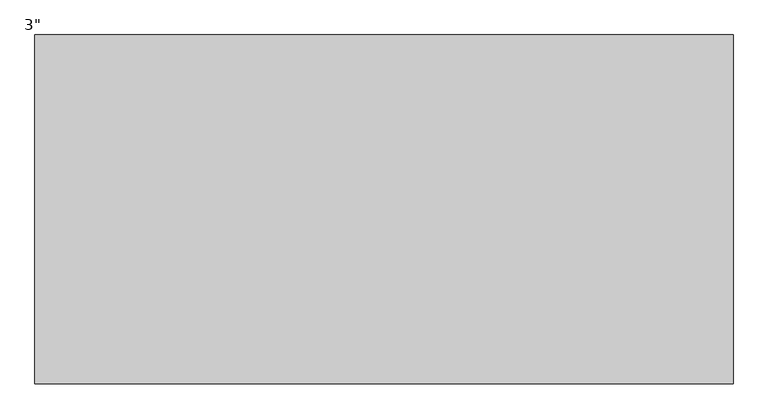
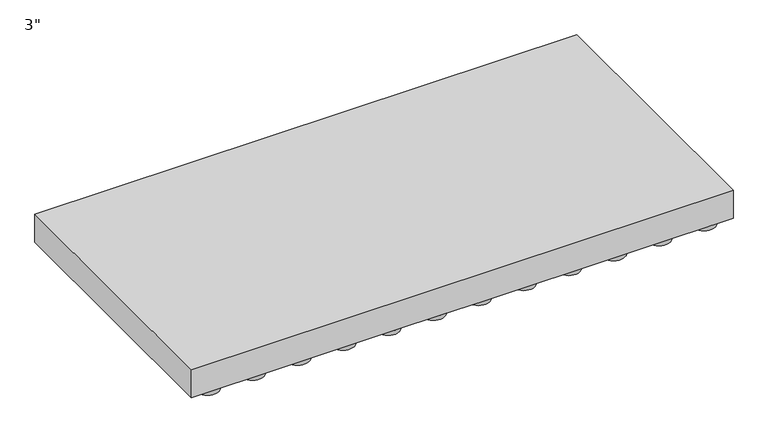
"""IFC4 building model written with IfcOpenShell, lengths in millimetres: proxy geometry."""

from ifc_helpers import new_model, si_unit, frame, origin, place, context, project, spatial, circle_curve, source, transform, mapped, element, save
from ifc_brep_helpers import plane_surface, cylinder_surface, advanced_brep


def proxy_46de1dcf(model_context):
    return source(origin(), model_context, "Body", "AdvancedBrep", [
        advanced_brep(
        [(533.4, -279.4, 0.0), (533.4, 279.4, 0.0), (584.2, 279.4, 0.0), (584.2, -279.4, 0.0), (431.8, -279.4, 0.0), (431.8, 279.4, 0.0), (482.6, 279.4, 0.0), (482.6, -279.4, 0.0), (330.2, -279.4, 0.0), (330.2, 279.4, 0.0), (381.0, 279.4, 0.0), (381.0, -279.4, 0.0), (228.6, -279.4, 0.0), (228.6, 279.4, 0.0), (279.4, 279.4, 0.0), (279.4, -279.4, 0.0), (127.0, -279.4, 0.0), (127.0, 279.4, 0.0), (177.8, 279.4, 0.0), (177.8, -279.4, 0.0), (25.4, -279.4, 0.0), (25.4, 279.4, 0.0), (76.2, 279.4, 0.0), (76.2, -279.4, 0.0), (-76.2, -279.4, 0.0), (-76.2, 279.4, 0.0), (-25.4, 279.4, 0.0), (-25.4, -279.4, 0.0), (-177.8, -279.4, 0.0), (-177.8, 279.4, 0.0), (-127.0, 279.4, 0.0), (-127.0, -279.4, 0.0), (-279.4, -279.4, 0.0), (-279.4, 279.4, 0.0), (-228.6, 279.4, 0.0), (-228.6, -279.4, 0.0), (-381.0, -279.4, 0.0), (-381.0, 279.4, 0.0), (-330.2, 279.4, 0.0), (-330.2, -279.4, 0.0), (-482.6, -279.4, 0.0), (-482.6, 279.4, 0.0), (-431.8, 279.4, 0.0), (-431.8, -279.4, 0.0), (-584.2, -279.4, 0.0), (-584.2, 279.4, 0.0), (-533.4, 279.4, 0.0), (-533.4, -279.4, 0.0), (533.4, -279.4, 9.525), (533.4, 279.4, 9.525), (558.8, 304.8, 9.525), (584.2, 279.4, 9.525), (584.2, -279.4, 9.525), (558.8, -304.8, 9.525), (-609.6, 304.8, 76.2), (-609.6, -304.8, 76.2), (609.6, -304.8, 76.2), (609.6, 304.8, 76.2), (457.2, -304.8, 9.525), (482.6, -279.4, 9.525), (482.6, 279.4, 9.525), (457.2, 304.8, 9.525), (-609.6, 304.8, 9.525), (-558.8, 304.8, 9.525), (-584.2, 279.4, 9.525), (-584.2, -279.4, 9.525), (-558.8, -304.8, 9.525), (-609.6, -304.8, 9.525), (609.6, -304.8, 9.525), (609.6, 304.8, 9.525), (431.8, 279.4, 9.525), (431.8, -279.4, 9.525), (355.6, -304.8, 9.525), (381.0, -279.4, 9.525), (381.0, 279.4, 9.525), (355.6, 304.8, 9.525), (330.2, 279.4, 9.525), (330.2, -279.4, 9.525), (254.0, -304.8, 9.525), (279.4, -279.4, 9.525), (279.4, 279.4, 9.525), (254.0, 304.8, 9.525), (228.6, 279.4, 9.525), (228.6, -279.4, 9.525), (152.4, -304.8, 9.525), (177.8, -279.4, 9.525), (177.8, 279.4, 9.525), (152.4, 304.8, 9.525), (127.0, 279.4, 9.525), (127.0, -279.4, 9.525), (50.8, -304.8, 9.525), (76.2, -279.4, 9.525), (76.2, 279.4, 9.525), (50.8, 304.8, 9.525), (25.4, 279.4, 9.525), (25.4, -279.4, 9.525), (-50.8, -304.8, 9.525), (-25.4, -279.4, 9.525), (-25.4, 279.4, 9.525), (-50.8, 304.8, 9.525), (-76.2, 279.4, 9.525), (-76.2, -279.4, 9.525), (-152.4, -304.8, 9.525), (-127.0, -279.4, 9.525), (-127.0, 279.4, 9.525), (-152.4, 304.8, 9.525), (-177.8, 279.4, 9.525), (-177.8, -279.4, 9.525), (-254.0, -304.8, 9.525), (-228.6, -279.4, 9.525), (-228.6, 279.4, 9.525), (-254.0, 304.8, 9.525), (-279.4, 279.4, 9.525), (-279.4, -279.4, 9.525), (-355.6, -304.8, 9.525), (-330.2, -279.4, 9.525), (-330.2, 279.4, 9.525), (-355.6, 304.8, 9.525), (-381.0, 279.4, 9.525), (-381.0, -279.4, 9.525), (-457.2, -304.8, 9.525), (-431.8, -279.4, 9.525), (-431.8, 279.4, 9.525), (-457.2, 304.8, 9.525), (-482.6, 279.4, 9.525), (-482.6, -279.4, 9.525), (-533.4, -279.4, 9.525), (-533.4, 279.4, 9.525)],
        [
            (0, 1),
            (1, 2, circle_curve(frame((558.8, 279.4, 0.0), z_axis=(0.0, 0.0, -1.0), x_axis=(1.0, 0.0, 0.0)), 25.4)),
            (2, 3),
            (3, 0, circle_curve(frame((558.8, -279.4, 0.0), z_axis=(0.0, 0.0, -1.0), x_axis=(1.0, 0.0, 0.0)), 25.4)),
            (4, 5),
            (5, 6, circle_curve(frame((457.2, 279.4, 0.0), z_axis=(0.0, 0.0, -1.0), x_axis=(1.0, 0.0, 0.0)), 25.4)),
            (6, 7),
            (7, 4, circle_curve(frame((457.2, -279.4, 0.0), z_axis=(0.0, 0.0, -1.0), x_axis=(1.0, 0.0, 0.0)), 25.4)),
            (8, 9),
            (9, 10, circle_curve(frame((355.6, 279.4, 0.0), z_axis=(0.0, 0.0, -1.0), x_axis=(1.0, 0.0, 0.0)), 25.4)),
            (10, 11),
            (11, 8, circle_curve(frame((355.6, -279.4, 0.0), z_axis=(0.0, 0.0, -1.0), x_axis=(1.0, 0.0, 0.0)), 25.4)),
            (12, 13),
            (13, 14, circle_curve(frame((254.0, 279.4, 0.0), z_axis=(0.0, 0.0, -1.0), x_axis=(1.0, 0.0, 0.0)), 25.4)),
            (14, 15),
            (15, 12, circle_curve(frame((254.0, -279.4, 0.0), z_axis=(0.0, 0.0, -1.0), x_axis=(1.0, 0.0, 0.0)), 25.4)),
            (16, 17),
            (17, 18, circle_curve(frame((152.4, 279.4, 0.0), z_axis=(0.0, 0.0, -1.0), x_axis=(1.0, 0.0, 0.0)), 25.4)),
            (18, 19),
            (19, 16, circle_curve(frame((152.4, -279.4, 0.0), z_axis=(0.0, 0.0, -1.0), x_axis=(1.0, 0.0, 0.0)), 25.4)),
            (20, 21),
            (21, 22, circle_curve(frame((50.8, 279.4, 0.0), z_axis=(0.0, 0.0, -1.0), x_axis=(1.0, 0.0, 0.0)), 25.4)),
            (22, 23),
            (23, 20, circle_curve(frame((50.8, -279.4, 0.0), z_axis=(0.0, 0.0, -1.0), x_axis=(1.0, 0.0, 0.0)), 25.4)),
            (24, 25),
            (25, 26, circle_curve(frame((-50.8, 279.4, 0.0), z_axis=(0.0, 0.0, -1.0), x_axis=(1.0, 0.0, 0.0)), 25.4)),
            (26, 27),
            (27, 24, circle_curve(frame((-50.8, -279.4, 0.0), z_axis=(0.0, 0.0, -1.0), x_axis=(1.0, 0.0, 0.0)), 25.4)),
            (28, 29),
            (29, 30, circle_curve(frame((-152.4, 279.4, 0.0), z_axis=(0.0, 0.0, -1.0), x_axis=(1.0, 0.0, 0.0)), 25.4)),
            (30, 31),
            (31, 28, circle_curve(frame((-152.4, -279.4, 0.0), z_axis=(0.0, 0.0, -1.0), x_axis=(1.0, 0.0, 0.0)), 25.4)),
            (32, 33),
            (33, 34, circle_curve(frame((-254.0, 279.4, 0.0), z_axis=(0.0, 0.0, -1.0), x_axis=(1.0, 0.0, 0.0)), 25.4)),
            (34, 35),
            (35, 32, circle_curve(frame((-254.0, -279.4, 0.0), z_axis=(0.0, 0.0, -1.0), x_axis=(1.0, 0.0, 0.0)), 25.4)),
            (36, 37),
            (37, 38, circle_curve(frame((-355.6, 279.4, 0.0), z_axis=(0.0, 0.0, -1.0), x_axis=(1.0, 0.0, 0.0)), 25.4)),
            (38, 39),
            (39, 36, circle_curve(frame((-355.6, -279.4, 0.0), z_axis=(0.0, 0.0, -1.0), x_axis=(1.0, 0.0, 0.0)), 25.4)),
            (40, 41),
            (41, 42, circle_curve(frame((-457.2, 279.4, 0.0), z_axis=(0.0, 0.0, -1.0), x_axis=(1.0, 0.0, 0.0)), 25.4)),
            (42, 43),
            (43, 40, circle_curve(frame((-457.2, -279.4, 0.0), z_axis=(0.0, 0.0, -1.0), x_axis=(1.0, 0.0, 0.0)), 25.4)),
            (44, 45),
            (45, 46, circle_curve(frame((-558.8, 279.4, 0.0), z_axis=(0.0, 0.0, -1.0), x_axis=(1.0, 0.0, 0.0)), 25.4)),
            (46, 47),
            (47, 44, circle_curve(frame((-558.8, -279.4, 0.0), z_axis=(0.0, 0.0, -1.0), x_axis=(1.0, 0.0, 0.0)), 25.4)),
            (0, 48),
            (48, 49),
            (49, 1),
            (49, 50, circle_curve(frame((558.8, 279.4, 9.525), z_axis=(0.0, 0.0, -1.0), x_axis=(1.0, 0.0, 0.0)), 25.4)),
            (50, 51, circle_curve(frame((558.8, 279.4, 9.525), z_axis=(0.0, 0.0, -1.0), x_axis=(1.0, 0.0, 0.0)), 25.4)),
            (51, 2),
            (51, 52),
            (52, 3),
            (52, 53, circle_curve(frame((558.8, -279.4, 9.525), z_axis=(0.0, 0.0, -1.0), x_axis=(1.0, 0.0, 0.0)), 25.4)),
            (53, 48, circle_curve(frame((558.8, -279.4, 9.525), z_axis=(0.0, 0.0, -1.0), x_axis=(1.0, 0.0, 0.0)), 25.4)),
            (54, 55),
            (55, 56),
            (56, 57),
            (57, 54),
            (53, 58),
            (58, 59, circle_curve(frame((457.2, -279.4, 9.525), z_axis=(0.0, 0.0, 1.0), x_axis=(1.0, 0.0, 0.0)), 25.4)),
            (59, 60),
            (60, 61, circle_curve(frame((457.2, 279.4, 9.525), z_axis=(0.0, 0.0, 1.0), x_axis=(1.0, 0.0, 0.0)), 25.4)),
            (61, 50),
            (62, 63),
            (63, 64, circle_curve(frame((-558.8, 279.4, 9.525), z_axis=(0.0, 0.0, 1.0), x_axis=(1.0, 0.0, 0.0)), 25.4)),
            (64, 65),
            (65, 66, circle_curve(frame((-558.8, -279.4, 9.525), z_axis=(0.0, 0.0, 1.0), x_axis=(1.0, 0.0, 0.0)), 25.4)),
            (66, 67),
            (67, 62),
            (68, 53),
            (50, 69),
            (69, 68),
            (61, 70, circle_curve(frame((457.2, 279.4, 9.525), z_axis=(0.0, 0.0, 1.0), x_axis=(1.0, 0.0, 0.0)), 25.4)),
            (70, 71),
            (71, 58, circle_curve(frame((457.2, -279.4, 9.525), z_axis=(0.0, 0.0, 1.0), x_axis=(1.0, 0.0, 0.0)), 25.4)),
            (58, 72),
            (72, 73, circle_curve(frame((355.6, -279.4, 9.525), z_axis=(0.0, 0.0, 1.0), x_axis=(1.0, 0.0, 0.0)), 25.4)),
            (73, 74),
            (74, 75, circle_curve(frame((355.6, 279.4, 9.525), z_axis=(0.0, 0.0, 1.0), x_axis=(1.0, 0.0, 0.0)), 25.4)),
            (75, 61),
            (75, 76, circle_curve(frame((355.6, 279.4, 9.525), z_axis=(0.0, 0.0, 1.0), x_axis=(1.0, 0.0, 0.0)), 25.4)),
            (76, 77),
            (77, 72, circle_curve(frame((355.6, -279.4, 9.525), z_axis=(0.0, 0.0, 1.0), x_axis=(1.0, 0.0, 0.0)), 25.4)),
            (72, 78),
            (78, 79, circle_curve(frame((254.0, -279.4, 9.525), z_axis=(0.0, 0.0, 1.0), x_axis=(1.0, 0.0, 0.0)), 25.4)),
            (79, 80),
            (80, 81, circle_curve(frame((254.0, 279.4, 9.525), z_axis=(0.0, 0.0, 1.0), x_axis=(1.0, 0.0, 0.0)), 25.4)),
            (81, 75),
            (81, 82, circle_curve(frame((254.0, 279.4, 9.525), z_axis=(0.0, 0.0, 1.0), x_axis=(1.0, 0.0, 0.0)), 25.4)),
            (82, 83),
            (83, 78, circle_curve(frame((254.0, -279.4, 9.525), z_axis=(0.0, 0.0, 1.0), x_axis=(1.0, 0.0, 0.0)), 25.4)),
            (78, 84),
            (84, 85, circle_curve(frame((152.4, -279.4, 9.525), z_axis=(0.0, 0.0, 1.0), x_axis=(1.0, 0.0, 0.0)), 25.4)),
            (85, 86),
            (86, 87, circle_curve(frame((152.4, 279.4, 9.525), z_axis=(0.0, 0.0, 1.0), x_axis=(1.0, 0.0, 0.0)), 25.4)),
            (87, 81),
            (87, 88, circle_curve(frame((152.4, 279.4, 9.525), z_axis=(0.0, 0.0, 1.0), x_axis=(1.0, 0.0, 0.0)), 25.4)),
            (88, 89),
            (89, 84, circle_curve(frame((152.4, -279.4, 9.525), z_axis=(0.0, 0.0, 1.0), x_axis=(1.0, 0.0, 0.0)), 25.4)),
            (84, 90),
            (90, 91, circle_curve(frame((50.8, -279.4, 9.525), z_axis=(0.0, 0.0, 1.0), x_axis=(1.0, 0.0, 0.0)), 25.4)),
            (91, 92),
            (92, 93, circle_curve(frame((50.8, 279.4, 9.525), z_axis=(0.0, 0.0, 1.0), x_axis=(1.0, 0.0, 0.0)), 25.4)),
            (93, 87),
            (93, 94, circle_curve(frame((50.8, 279.4, 9.525), z_axis=(0.0, 0.0, 1.0), x_axis=(1.0, 0.0, 0.0)), 25.4)),
            (94, 95),
            (95, 90, circle_curve(frame((50.8, -279.4, 9.525), z_axis=(0.0, 0.0, 1.0), x_axis=(1.0, 0.0, 0.0)), 25.4)),
            (90, 96),
            (96, 97, circle_curve(frame((-50.8, -279.4, 9.525), z_axis=(0.0, 0.0, 1.0), x_axis=(1.0, 0.0, 0.0)), 25.4)),
            (97, 98),
            (98, 99, circle_curve(frame((-50.8, 279.4, 9.525), z_axis=(0.0, 0.0, 1.0), x_axis=(1.0, 0.0, 0.0)), 25.4)),
            (99, 93),
            (99, 100, circle_curve(frame((-50.8, 279.4, 9.525), z_axis=(0.0, 0.0, 1.0), x_axis=(1.0, 0.0, 0.0)), 25.4)),
            (100, 101),
            (101, 96, circle_curve(frame((-50.8, -279.4, 9.525), z_axis=(0.0, 0.0, 1.0), x_axis=(1.0, 0.0, 0.0)), 25.4)),
            (96, 102),
            (102, 103, circle_curve(frame((-152.4, -279.4, 9.525), z_axis=(0.0, 0.0, 1.0), x_axis=(1.0, 0.0, 0.0)), 25.4)),
            (103, 104),
            (104, 105, circle_curve(frame((-152.4, 279.4, 9.525), z_axis=(0.0, 0.0, 1.0), x_axis=(1.0, 0.0, 0.0)), 25.4)),
            (105, 99),
            (105, 106, circle_curve(frame((-152.4, 279.4, 9.525), z_axis=(0.0, 0.0, 1.0), x_axis=(1.0, 0.0, 0.0)), 25.4)),
            (106, 107),
            (107, 102, circle_curve(frame((-152.4, -279.4, 9.525), z_axis=(0.0, 0.0, 1.0), x_axis=(1.0, 0.0, 0.0)), 25.4)),
            (102, 108),
            (108, 109, circle_curve(frame((-254.0, -279.4, 9.525), z_axis=(0.0, 0.0, 1.0), x_axis=(1.0, 0.0, 0.0)), 25.4)),
            (109, 110),
            (110, 111, circle_curve(frame((-254.0, 279.4, 9.525), z_axis=(0.0, 0.0, 1.0), x_axis=(1.0, 0.0, 0.0)), 25.4)),
            (111, 105),
            (111, 112, circle_curve(frame((-254.0, 279.4, 9.525), z_axis=(0.0, 0.0, 1.0), x_axis=(1.0, 0.0, 0.0)), 25.4)),
            (112, 113),
            (113, 108, circle_curve(frame((-254.0, -279.4, 9.525), z_axis=(0.0, 0.0, 1.0), x_axis=(1.0, 0.0, 0.0)), 25.4)),
            (108, 114),
            (114, 115, circle_curve(frame((-355.6, -279.4, 9.525), z_axis=(0.0, 0.0, 1.0), x_axis=(1.0, 0.0, 0.0)), 25.4)),
            (115, 116),
            (116, 117, circle_curve(frame((-355.6, 279.4, 9.525), z_axis=(0.0, 0.0, 1.0), x_axis=(1.0, 0.0, 0.0)), 25.4)),
            (117, 111),
            (117, 118, circle_curve(frame((-355.6, 279.4, 9.525), z_axis=(0.0, 0.0, 1.0), x_axis=(1.0, 0.0, 0.0)), 25.4)),
            (118, 119),
            (119, 114, circle_curve(frame((-355.6, -279.4, 9.525), z_axis=(0.0, 0.0, 1.0), x_axis=(1.0, 0.0, 0.0)), 25.4)),
            (114, 120),
            (120, 121, circle_curve(frame((-457.2, -279.4, 9.525), z_axis=(0.0, 0.0, 1.0), x_axis=(1.0, 0.0, 0.0)), 25.4)),
            (121, 122),
            (122, 123, circle_curve(frame((-457.2, 279.4, 9.525), z_axis=(0.0, 0.0, 1.0), x_axis=(1.0, 0.0, 0.0)), 25.4)),
            (123, 117),
            (123, 124, circle_curve(frame((-457.2, 279.4, 9.525), z_axis=(0.0, 0.0, 1.0), x_axis=(1.0, 0.0, 0.0)), 25.4)),
            (124, 125),
            (125, 120, circle_curve(frame((-457.2, -279.4, 9.525), z_axis=(0.0, 0.0, 1.0), x_axis=(1.0, 0.0, 0.0)), 25.4)),
            (120, 66),
            (66, 126, circle_curve(frame((-558.8, -279.4, 9.525), z_axis=(0.0, 0.0, 1.0), x_axis=(1.0, 0.0, 0.0)), 25.4)),
            (126, 127),
            (127, 63, circle_curve(frame((-558.8, 279.4, 9.525), z_axis=(0.0, 0.0, 1.0), x_axis=(1.0, 0.0, 0.0)), 25.4)),
            (63, 123),
            (57, 69),
            (62, 54),
            (56, 68),
            (55, 67),
            (4, 71),
            (70, 5),
            (60, 6),
            (59, 7),
            (8, 77),
            (76, 9),
            (74, 10),
            (73, 11),
            (12, 83),
            (82, 13),
            (80, 14),
            (79, 15),
            (16, 89),
            (88, 17),
            (86, 18),
            (85, 19),
            (20, 95),
            (94, 21),
            (92, 22),
            (91, 23),
            (24, 101),
            (100, 25),
            (98, 26),
            (97, 27),
            (28, 107),
            (106, 29),
            (104, 30),
            (103, 31),
            (32, 113),
            (112, 33),
            (110, 34),
            (109, 35),
            (36, 119),
            (118, 37),
            (116, 38),
            (115, 39),
            (40, 125),
            (124, 41),
            (122, 42),
            (121, 43),
            (44, 65),
            (64, 45),
            (127, 46),
            (126, 47),
        ],
        [
            plane_surface(frame((533.4, -279.4, 0.0), z_axis=(0.0, 0.0, -1.0), x_axis=(0.0, -1.0, 0.0))),
            plane_surface(frame((533.4, -279.4, 9.525), z_axis=(-1.0, 0.0, 0.0), x_axis=(0.0, 0.0, -1.0))),
            cylinder_surface(frame((558.8, 279.4, 0.0), z_axis=(0.0, 0.0, 1.0), x_axis=(1.0, 0.0, 0.0)), 25.4),
            plane_surface(frame((584.2, 279.4, 9.525), z_axis=(1.0, 0.0, 0.0), x_axis=(0.0, 0.0, -1.0))),
            cylinder_surface(frame((558.8, -279.4, 0.0), z_axis=(0.0, 0.0, 1.0), x_axis=(1.0, 0.0, 0.0)), 25.4),
            plane_surface(frame((1524.0, 304.8, 76.2), z_axis=(0.0, 0.0, 1.0), x_axis=(1.0, 0.0, 0.0))),
            plane_surface(frame((1524.0, 304.8, 9.525), z_axis=(0.0, 0.0, -1.0), x_axis=(-1.0, 0.0, 0.0))),
            plane_surface(frame((-609.6, 304.8, 76.2), z_axis=(0.0, 1.0, 0.0), x_axis=(0.0, 0.0, -1.0))),
            plane_surface(frame((609.6, 304.8, 76.2), z_axis=(1.0, 0.0, 0.0), x_axis=(0.0, 0.0, -1.0))),
            plane_surface(frame((609.6, -304.8, 76.2), z_axis=(0.0, -1.0, 0.0), x_axis=(0.0, 0.0, -1.0))),
            plane_surface(frame((-609.6, -304.8, 76.2), z_axis=(-1.0, 0.0, 0.0), x_axis=(0.0, 0.0, -1.0))),
            plane_surface(frame((431.8, -279.4, 9.525), z_axis=(-1.0, 0.0, 0.0), x_axis=(0.0, 0.0, -1.0))),
            cylinder_surface(frame((457.2, 279.4, 0.0), z_axis=(0.0, 0.0, 1.0), x_axis=(1.0, 0.0, 0.0)), 25.4),
            plane_surface(frame((482.6, 279.4, 9.525), z_axis=(1.0, 0.0, 0.0), x_axis=(0.0, 0.0, -1.0))),
            cylinder_surface(frame((457.2, -279.4, 0.0), z_axis=(0.0, 0.0, 1.0), x_axis=(1.0, 0.0, 0.0)), 25.4),
            plane_surface(frame((330.2, -279.4, 9.525), z_axis=(-1.0, 0.0, 0.0), x_axis=(0.0, 0.0, -1.0))),
            cylinder_surface(frame((355.6, 279.4, 0.0), z_axis=(0.0, 0.0, 1.0), x_axis=(1.0, 0.0, 0.0)), 25.4),
            plane_surface(frame((381.0, 279.4, 9.525), z_axis=(1.0, 0.0, 0.0), x_axis=(0.0, 0.0, -1.0))),
            cylinder_surface(frame((355.6, -279.4, 0.0), z_axis=(0.0, 0.0, 1.0), x_axis=(1.0, 0.0, 0.0)), 25.4),
            plane_surface(frame((228.6, -279.4, 9.525), z_axis=(-1.0, 0.0, 0.0), x_axis=(0.0, 0.0, -1.0))),
            cylinder_surface(frame((254.0, 279.4, 0.0), z_axis=(0.0, 0.0, 1.0), x_axis=(1.0, 0.0, 0.0)), 25.4),
            plane_surface(frame((279.4, 279.4, 9.525), z_axis=(1.0, 0.0, 0.0), x_axis=(0.0, 0.0, -1.0))),
            cylinder_surface(frame((254.0, -279.4, 0.0), z_axis=(0.0, 0.0, 1.0), x_axis=(1.0, 0.0, 0.0)), 25.4),
            plane_surface(frame((127.0, -279.4, 9.525), z_axis=(-1.0, 0.0, 0.0), x_axis=(0.0, 0.0, -1.0))),
            cylinder_surface(frame((152.4, 279.4, 0.0), z_axis=(0.0, 0.0, 1.0), x_axis=(1.0, 0.0, 0.0)), 25.4),
            plane_surface(frame((177.8, 279.4, 9.525), z_axis=(1.0, 0.0, 0.0), x_axis=(0.0, 0.0, -1.0))),
            cylinder_surface(frame((152.4, -279.4, 0.0), z_axis=(0.0, 0.0, 1.0), x_axis=(1.0, 0.0, 0.0)), 25.4),
            plane_surface(frame((25.4, -279.4, 9.525), z_axis=(-1.0, 0.0, 0.0), x_axis=(0.0, 0.0, -1.0))),
            cylinder_surface(frame((50.8, 279.4, 0.0), z_axis=(0.0, 0.0, 1.0), x_axis=(1.0, 0.0, 0.0)), 25.4),
            plane_surface(frame((76.2, 279.4, 9.525), z_axis=(1.0, 0.0, 0.0), x_axis=(0.0, 0.0, -1.0))),
            cylinder_surface(frame((50.8, -279.4, 0.0), z_axis=(0.0, 0.0, 1.0), x_axis=(1.0, 0.0, 0.0)), 25.4),
            plane_surface(frame((-76.2, -279.4, 9.525), z_axis=(-1.0, 0.0, 0.0), x_axis=(0.0, 0.0, -1.0))),
            cylinder_surface(frame((-50.8, 279.4, 0.0), z_axis=(0.0, 0.0, 1.0), x_axis=(1.0, 0.0, 0.0)), 25.4),
            plane_surface(frame((-25.4, 279.4, 9.525), z_axis=(1.0, 0.0, 0.0), x_axis=(0.0, 0.0, -1.0))),
            cylinder_surface(frame((-50.8, -279.4, 0.0), z_axis=(0.0, 0.0, 1.0), x_axis=(1.0, 0.0, 0.0)), 25.4),
            plane_surface(frame((-177.8, -279.4, 9.525), z_axis=(-1.0, 0.0, 0.0), x_axis=(0.0, 0.0, -1.0))),
            cylinder_surface(frame((-152.4, 279.4, 0.0), z_axis=(0.0, 0.0, 1.0), x_axis=(1.0, 0.0, 0.0)), 25.4),
            plane_surface(frame((-127.0, 279.4, 9.525), z_axis=(1.0, 0.0, 0.0), x_axis=(0.0, 0.0, -1.0))),
            cylinder_surface(frame((-152.4, -279.4, 0.0), z_axis=(0.0, 0.0, 1.0), x_axis=(1.0, 0.0, 0.0)), 25.4),
            plane_surface(frame((-279.4, -279.4, 9.525), z_axis=(-1.0, 0.0, 0.0), x_axis=(0.0, 0.0, -1.0))),
            cylinder_surface(frame((-254.0, 279.4, 0.0), z_axis=(0.0, 0.0, 1.0), x_axis=(1.0, 0.0, 0.0)), 25.4),
            plane_surface(frame((-228.6, 279.4, 9.525), z_axis=(1.0, 0.0, 0.0), x_axis=(0.0, 0.0, -1.0))),
            cylinder_surface(frame((-254.0, -279.4, 0.0), z_axis=(0.0, 0.0, 1.0), x_axis=(1.0, 0.0, 0.0)), 25.4),
            plane_surface(frame((-381.0, -279.4, 9.525), z_axis=(-1.0, 0.0, 0.0), x_axis=(0.0, 0.0, -1.0))),
            cylinder_surface(frame((-355.6, 279.4, 0.0), z_axis=(0.0, 0.0, 1.0), x_axis=(1.0, 0.0, 0.0)), 25.4),
            plane_surface(frame((-330.2, 279.4, 9.525), z_axis=(1.0, 0.0, 0.0), x_axis=(0.0, 0.0, -1.0))),
            cylinder_surface(frame((-355.6, -279.4, 0.0), z_axis=(0.0, 0.0, 1.0), x_axis=(1.0, 0.0, 0.0)), 25.4),
            plane_surface(frame((-482.6, -279.4, 9.525), z_axis=(-1.0, 0.0, 0.0), x_axis=(0.0, 0.0, -1.0))),
            cylinder_surface(frame((-457.2, 279.4, 0.0), z_axis=(0.0, 0.0, 1.0), x_axis=(1.0, 0.0, 0.0)), 25.4),
            plane_surface(frame((-431.8, 279.4, 9.525), z_axis=(1.0, 0.0, 0.0), x_axis=(0.0, 0.0, -1.0))),
            cylinder_surface(frame((-457.2, -279.4, 0.0), z_axis=(0.0, 0.0, 1.0), x_axis=(1.0, 0.0, 0.0)), 25.4),
            plane_surface(frame((-584.2, -279.4, 9.525), z_axis=(-1.0, 0.0, 0.0), x_axis=(0.0, 0.0, -1.0))),
            cylinder_surface(frame((-558.8, 279.4, 0.0), z_axis=(0.0, 0.0, 1.0), x_axis=(1.0, 0.0, 0.0)), 25.4),
            plane_surface(frame((-533.4, 279.4, 9.525), z_axis=(1.0, 0.0, 0.0), x_axis=(0.0, 0.0, -1.0))),
            cylinder_surface(frame((-558.8, -279.4, 0.0), z_axis=(0.0, 0.0, 1.0), x_axis=(1.0, 0.0, 0.0)), 25.4),
        ],
        [
            (0, [[1, 2, 3, 4]]),
            (0, [[5, 6, 7, 8]]),
            (0, [[9, 10, 11, 12]]),
            (0, [[13, 14, 15, 16]]),
            (0, [[17, 18, 19, 20]]),
            (0, [[21, 22, 23, 24]]),
            (0, [[25, 26, 27, 28]]),
            (0, [[29, 30, 31, 32]]),
            (0, [[33, 34, 35, 36]]),
            (0, [[37, 38, 39, 40]]),
            (0, [[41, 42, 43, 44]]),
            (0, [[45, 46, 47, 48]]),
            (1, [[49, 50, 51, -1]]),
            (2, [[-51, 52, 53, 54, -2]]),
            (3, [[-54, 55, 56, -3]]),
            (4, [[-56, 57, 58, -49, -4]]),
            (5, [[59, 60, 61, 62]]),
            (6, [[-52, -50, -58, 63, 64, 65, 66, 67]]),
            (6, [[68, 69, 70, 71, 72, 73]]),
            (6, [[74, -57, -55, -53, 75, 76]]),
            (6, [[77, 78, 79, 80, 81, 82, 83, 84]]),
            (6, [[85, 86, 87, 88, 89, 90, 91, 92]]),
            (6, [[93, 94, 95, 96, 97, 98, 99, 100]]),
            (6, [[101, 102, 103, 104, 105, 106, 107, 108]]),
            (6, [[109, 110, 111, 112, 113, 114, 115, 116]]),
            (6, [[117, 118, 119, 120, 121, 122, 123, 124]]),
            (6, [[125, 126, 127, 128, 129, 130, 131, 132]]),
            (6, [[133, 134, 135, 136, 137, 138, 139, 140]]),
            (6, [[141, 142, 143, 144, 145, 146, 147, 148]]),
            (6, [[149, 150, 151, 152, 153, 154, 155, 156]]),
            (7, [[157, -75, -67, -84, -92, -100, -108, -116, -124, -132, -140, -148, -156, -68, 158, -62]]),
            (8, [[159, -76, -157, -61]]),
            (9, [[160, -72, -152, -144, -136, -128, -120, -112, -104, -96, -88, -80, -63, -74, -159, -60]]),
            (10, [[-158, -73, -160, -59]]),
            (11, [[161, -78, 162, -5]]),
            (12, [[-162, -77, -66, 163, -6]]),
            (13, [[-163, -65, 164, -7]]),
            (14, [[-164, -64, -79, -161, -8]]),
            (15, [[165, -86, 166, -9]]),
            (16, [[-166, -85, -83, 167, -10]]),
            (17, [[-167, -82, 168, -11]]),
            (18, [[-168, -81, -87, -165, -12]]),
            (19, [[169, -94, 170, -13]]),
            (20, [[-170, -93, -91, 171, -14]]),
            (21, [[-171, -90, 172, -15]]),
            (22, [[-172, -89, -95, -169, -16]]),
            (23, [[173, -102, 174, -17]]),
            (24, [[-174, -101, -99, 175, -18]]),
            (25, [[-175, -98, 176, -19]]),
            (26, [[-176, -97, -103, -173, -20]]),
            (27, [[177, -110, 178, -21]]),
            (28, [[-178, -109, -107, 179, -22]]),
            (29, [[-179, -106, 180, -23]]),
            (30, [[-180, -105, -111, -177, -24]]),
            (31, [[181, -118, 182, -25]]),
            (32, [[-182, -117, -115, 183, -26]]),
            (33, [[-183, -114, 184, -27]]),
            (34, [[-184, -113, -119, -181, -28]]),
            (35, [[185, -126, 186, -29]]),
            (36, [[-186, -125, -123, 187, -30]]),
            (37, [[-187, -122, 188, -31]]),
            (38, [[-188, -121, -127, -185, -32]]),
            (39, [[189, -134, 190, -33]]),
            (40, [[-190, -133, -131, 191, -34]]),
            (41, [[-191, -130, 192, -35]]),
            (42, [[-192, -129, -135, -189, -36]]),
            (43, [[193, -142, 194, -37]]),
            (44, [[-194, -141, -139, 195, -38]]),
            (45, [[-195, -138, 196, -39]]),
            (46, [[-196, -137, -143, -193, -40]]),
            (47, [[197, -150, 198, -41]]),
            (48, [[-198, -149, -147, 199, -42]]),
            (49, [[-199, -146, 200, -43]]),
            (50, [[-200, -145, -151, -197, -44]]),
            (51, [[201, -70, 202, -45]]),
            (52, [[-202, -69, -155, 203, -46]]),
            (53, [[-203, -154, 204, -47]]),
            (54, [[-204, -153, -71, -201, -48]]),
        ],
    ),
    ])


if __name__ == "__main__":
    model = new_model("IFC4")
    model_context = context("Model", 3, world=origin())
    ifc_project = project(units=[si_unit("LENGTHUNIT", "METRE", prefix="MILLI")], contexts=[model_context])
    site = spatial("IfcSite", under=ifc_project)
    building = spatial("IfcBuilding", under=site)
    placement = place(None, origin())
    proxy_shape = proxy_46de1dcf(model_context)
    element("IfcBuildingElementProxy", 1, Name="Durabond Generic Model Quantum Select 5-0 Insulation Board : 3\"", ObjectType="Durabond Generic Model Quantum Select 5-0 Insulation Board : 3\"", at=placement, inside=building, context=model_context, shape_type="MappedRepresentation", body=[
        mapped(proxy_shape, transform((0.0, 0.0, 0.0), x_axis=(1.0, 0.0, 0.0), y_axis=(0.0, 1.0, 0.0), z_axis=(0.0, 0.0, 1.0))),
    ])
    save(model, "model.ifc")
